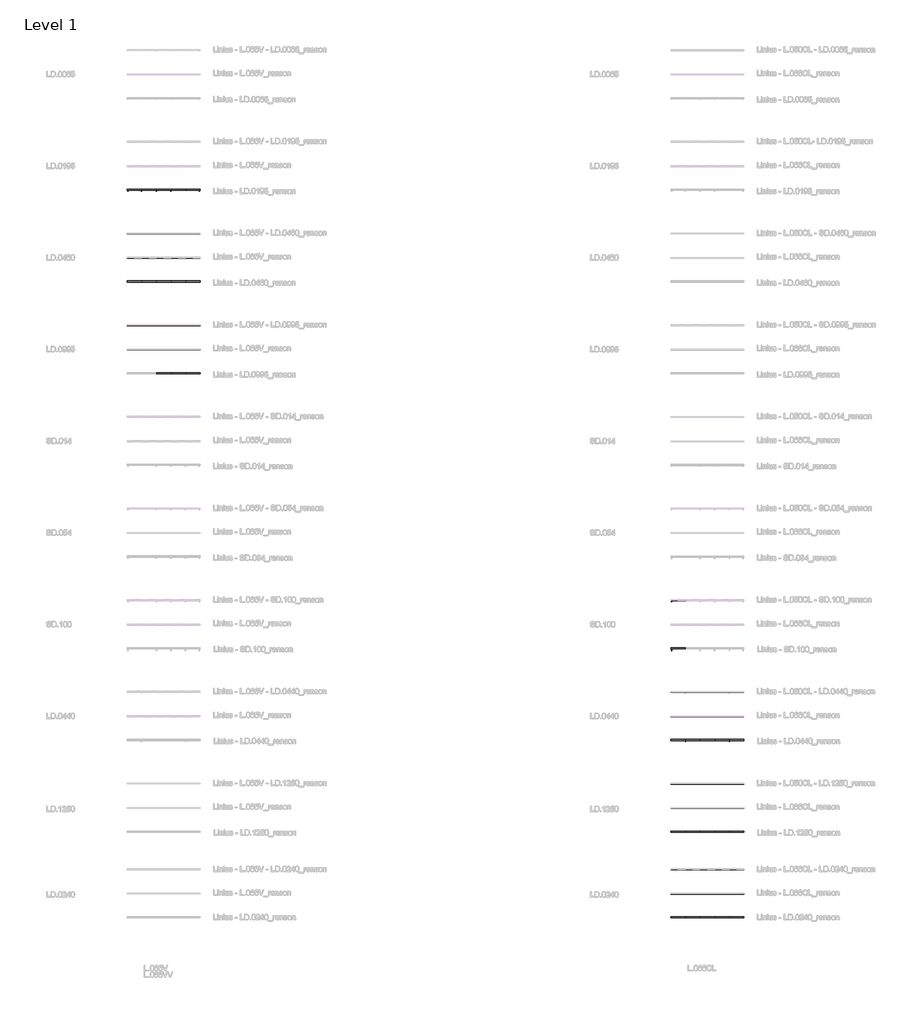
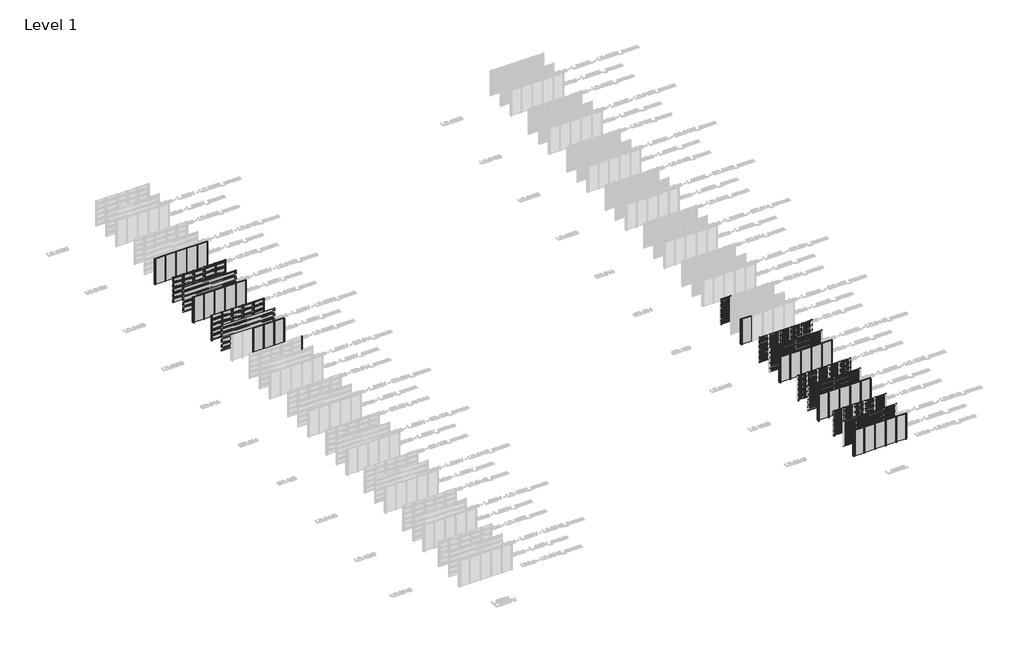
# One storey, part 9 of 540: 67 members, 60 plates.
"""IFC4 building model written with IfcOpenShell, lengths in millimetres."""

from ifc_helpers import new_model, si_unit, origin, origin_with_axes, place, context, project, spatial, polyline, outline, extrude, faceted_brep, transform, mapped, element, save
from components import rectangular_mullion_e1f482b2, rectangular_mullion_21e3ddae, rectangular_mullion_fb497acc, rectangular_mullion_2c867e25, rectangular_mullion_7803f5c4, rectangular_mullion_82152e2f, rectangular_mullion_146f339b, rectangular_mullion_aa1047c5, rectangular_mullion_c2c7736a, rectangular_mullion_35b0a916, rectangular_mullion_bd250e2e, rectangular_mullion_7b49c8f1, rectangular_mullion_0fd695e7, rectangular_mullion_6132f1f1, rectangular_mullion_5b30f3fd, rectangular_mullion_5e0e8e0a, rectangular_mullion_d2d38772, rectangular_mullion_efb80f74, rectangular_mullion_aaa1fb1b, rectangular_mullion_ea9d012c, empty_system_panel_empty_aabbdda4

model = new_model("IFC4")

# Units and contexts
model_context = context("Model", 3, world=origin())
ifc_project = project(units=[si_unit("LENGTHUNIT", "METRE", prefix="MILLI")], contexts=[model_context])

# Site, building, storey
site = spatial("IfcSite", under=ifc_project)
building = spatial("IfcBuilding", under=site)
storey = spatial("IfcBuildingStorey", under=building, Name="Level 1", Elevation=0.0)

# Members
placement = place(None, origin())
rectangular_mullion_shape = rectangular_mullion_e1f482b2(model_context)
element("IfcMember", 1, ObjectType="Rectangular Mullion : LD.0195_renson", at=placement, inside=storey, context=model_context, shape_type="MappedRepresentation", body=[
    mapped(rectangular_mullion_shape, transform((183266.6208095, 62483.0540136, 0.0), x_axis=(-1.0, 0.0, 0.0), y_axis=(0.0, 1.0, 0.0), z_axis=(0.0, 0.0, -1.0))),
])
element("IfcMember", 2, ObjectType="Rectangular Mullion : LD.0195_renson", at=placement, inside=storey, context=model_context, shape_type="MappedRepresentation", body=[
    mapped(rectangular_mullion_shape, transform((182066.6208096, 62483.0540136, 0.0), x_axis=(-1.0, 0.0, 0.0), y_axis=(0.0, 1.0, 0.0), z_axis=(0.0, 0.0, -1.0))),
])
element("IfcMember", 3, ObjectType="Rectangular Mullion : LD.0195_renson", at=placement, inside=storey, context=model_context, shape_type="MappedRepresentation", body=[
    mapped(rectangular_mullion_shape, transform((180866.6208097, 62483.0540136, 0.0), x_axis=(-1.0, 0.0, 0.0), y_axis=(0.0, 1.0, 0.0), z_axis=(0.0, 0.0, -1.0))),
])
element("IfcMember", 4, ObjectType="Rectangular Mullion : LD.0195_renson", at=placement, inside=storey, context=model_context, shape_type="MappedRepresentation", body=[
    mapped(rectangular_mullion_shape, transform((179666.6208099, 62483.0540136, 0.0), x_axis=(-1.0, 0.0, 0.0), y_axis=(0.0, 1.0, 0.0), z_axis=(0.0, 0.0, -1.0))),
])
rectangular_mullion_2_shape = rectangular_mullion_21e3ddae(model_context)
element("IfcMember", 5, ObjectType="Rectangular Mullion : LD.0460_renson", at=placement, inside=storey, context=model_context, shape_type="MappedRepresentation", body=[
    mapped(rectangular_mullion_2_shape, transform((182066.6208096, 58983.0540136, 0.0), x_axis=(-1.0, 0.0, 0.0), y_axis=(0.0, 1.0, 0.0), z_axis=(0.0, 0.0, -1.0))),
])
element("IfcMember", 6, ObjectType="Rectangular Mullion : LD.0460_renson", at=placement, inside=storey, context=model_context, shape_type="MappedRepresentation", body=[
    mapped(rectangular_mullion_2_shape, transform((180866.6208097, 58983.0540136, 0.0), x_axis=(-1.0, 0.0, 0.0), y_axis=(0.0, 1.0, 0.0), z_axis=(0.0, 0.0, -1.0))),
])
element("IfcMember", 7, ObjectType="Rectangular Mullion : LD.0460_renson", at=placement, inside=storey, context=model_context, shape_type="MappedRepresentation", body=[
    mapped(rectangular_mullion_2_shape, transform((179666.6208099, 58983.0540136, 0.0), x_axis=(-1.0, 0.0, 0.0), y_axis=(0.0, 1.0, 0.0), z_axis=(0.0, 0.0, -1.0))),
])
element("IfcMember", 8, ObjectType="Rectangular Mullion : LD.0460_renson", at=placement, inside=storey, context=model_context, shape_type="MappedRepresentation", body=[
    mapped(rectangular_mullion_2_shape, transform((183266.6208095, 54983.0540136, 0.0), x_axis=(-1.0, 0.0, 0.0), y_axis=(0.0, 1.0, 0.0), z_axis=(0.0, 0.0, -1.0))),
])
element("IfcMember", 9, ObjectType="Rectangular Mullion : LD.0460_renson", at=placement, inside=storey, context=model_context, shape_type="MappedRepresentation", body=[
    mapped(rectangular_mullion_2_shape, transform((182066.6208096, 54983.0540136, 0.0), x_axis=(-1.0, 0.0, 0.0), y_axis=(0.0, 1.0, 0.0), z_axis=(0.0, 0.0, -1.0))),
])
element("IfcMember", 10, ObjectType="Rectangular Mullion : LD.0460_renson", at=placement, inside=storey, context=model_context, shape_type="MappedRepresentation", body=[
    mapped(rectangular_mullion_2_shape, transform((180866.6208097, 54983.0540136, 0.0), x_axis=(-1.0, 0.0, 0.0), y_axis=(0.0, 1.0, 0.0), z_axis=(0.0, 0.0, -1.0))),
])
element("IfcMember", 11, ObjectType="Rectangular Mullion : LD.0460_renson", at=placement, inside=storey, context=model_context, shape_type="MappedRepresentation", body=[
    mapped(rectangular_mullion_2_shape, transform((179666.6208099, 54983.0540136, 0.0), x_axis=(-1.0, 0.0, 0.0), y_axis=(0.0, 1.0, 0.0), z_axis=(0.0, 0.0, -1.0))),
])
element("IfcMember", 12, ObjectType="Rectangular Mullion : LD.0460_renson", at=placement, inside=storey, context=model_context, shape_type="MappedRepresentation", body=[
    mapped(rectangular_mullion_2_shape, transform((183266.6208095, 58983.0540136, 0.0), x_axis=(-1.0, 0.0, 0.0), y_axis=(0.0, 1.0, 0.0), z_axis=(0.0, 0.0, -1.0))),
])
rectangular_mullion_3_shape = rectangular_mullion_fb497acc(model_context)
element("IfcMember", 13, ObjectType="Rectangular Mullion : LD.0995_renson", at=placement, inside=storey, context=model_context, shape_type="MappedRepresentation", body=[
    mapped(rectangular_mullion_3_shape, transform((182066.6208096, 51483.0540136, 0.0), x_axis=(-1.0, 0.0, 0.0), y_axis=(0.0, 1.0, 0.0), z_axis=(0.0, 0.0, -1.0))),
])
element("IfcMember", 14, ObjectType="Rectangular Mullion : LD.0995_renson", at=placement, inside=storey, context=model_context, shape_type="MappedRepresentation", body=[
    mapped(rectangular_mullion_3_shape, transform((180866.6208097, 51483.0540136, 0.0), x_axis=(-1.0, 0.0, 0.0), y_axis=(0.0, 1.0, 0.0), z_axis=(0.0, 0.0, -1.0))),
])
element("IfcMember", 15, ObjectType="Rectangular Mullion : LD.0995_renson", at=placement, inside=storey, context=model_context, shape_type="MappedRepresentation", body=[
    mapped(rectangular_mullion_3_shape, transform((179666.6208099, 51483.0540136, 0.0), x_axis=(-1.0, 0.0, 0.0), y_axis=(0.0, 1.0, 0.0), z_axis=(0.0, 0.0, -1.0))),
])
element("IfcMember", 16, ObjectType="Rectangular Mullion : LD.0995_renson", at=placement, inside=storey, context=model_context, shape_type="MappedRepresentation", body=[
    mapped(rectangular_mullion_3_shape, transform((183266.6208095, 47483.0540136, 0.0), x_axis=(-1.0, 0.0, 0.0), y_axis=(0.0, 1.0, 0.0), z_axis=(0.0, 0.0, -1.0))),
])
element("IfcMember", 17, ObjectType="Rectangular Mullion : LD.0995_renson", at=placement, inside=storey, context=model_context, shape_type="MappedRepresentation", body=[
    mapped(rectangular_mullion_3_shape, transform((182066.6208096, 47483.0540136, 0.0), x_axis=(-1.0, 0.0, 0.0), y_axis=(0.0, 1.0, 0.0), z_axis=(0.0, 0.0, -1.0))),
])
element("IfcMember", 18, ObjectType="Rectangular Mullion : LD.0995_renson", at=placement, inside=storey, context=model_context, shape_type="MappedRepresentation", body=[
    mapped(rectangular_mullion_3_shape, transform((180866.6208097, 47483.0540136, 0.0), x_axis=(-1.0, 0.0, 0.0), y_axis=(0.0, 1.0, 0.0), z_axis=(0.0, 0.0, -1.0))),
])
element("IfcMember", 19, ObjectType="Rectangular Mullion : LD.0995_renson", at=placement, inside=storey, context=model_context, shape_type="MappedRepresentation", body=[
    mapped(rectangular_mullion_3_shape, transform((183266.6208095, 51483.0540136, 0.0), x_axis=(-1.0, 0.0, 0.0), y_axis=(0.0, 1.0, 0.0), z_axis=(0.0, 0.0, -1.0))),
])
rectangular_mullion_4_shape = rectangular_mullion_2c867e25(model_context)
element("IfcMember", 20, ObjectType="Rectangular Mullion : LD.0440_renson", at=placement, inside=storey, context=model_context, shape_type="MappedRepresentation", body=[
    mapped(rectangular_mullion_4_shape, transform((225366.6208097, 21478.8040136, 0.0), x_axis=(-1.0, 0.0, 0.0), y_axis=(0.0, 1.0, 0.0), z_axis=(0.0, 0.0, -1.0))),
])
element("IfcMember", 21, ObjectType="Rectangular Mullion : LD.0440_renson", at=placement, inside=storey, context=model_context, shape_type="MappedRepresentation", body=[
    mapped(rectangular_mullion_4_shape, transform((224166.6208099, 21478.8040136, 0.0), x_axis=(-1.0, 0.0, 0.0), y_axis=(0.0, 1.0, 0.0), z_axis=(0.0, 0.0, -1.0))),
])
element("IfcMember", 22, ObjectType="Rectangular Mullion : LD.0440_renson", at=placement, inside=storey, context=model_context, shape_type="MappedRepresentation", body=[
    mapped(rectangular_mullion_4_shape, transform((225366.6208097, 17478.8040136, 0.0), x_axis=(-1.0, 0.0, 0.0), y_axis=(0.0, 1.0, 0.0), z_axis=(0.0, 0.0, -1.0))),
])
element("IfcMember", 23, ObjectType="Rectangular Mullion : LD.0440_renson", at=placement, inside=storey, context=model_context, shape_type="MappedRepresentation", body=[
    mapped(rectangular_mullion_4_shape, transform((224166.6208099, 17478.8040136, 0.0), x_axis=(-1.0, 0.0, 0.0), y_axis=(0.0, 1.0, 0.0), z_axis=(0.0, 0.0, -1.0))),
])
element("IfcMember", 24, ObjectType="Rectangular Mullion : LD.0440_renson", at=placement, inside=storey, context=model_context, shape_type="MappedRepresentation", body=[
    mapped(rectangular_mullion_4_shape, transform((226566.6208096, 17478.8040136, 0.0), x_axis=(-1.0, 0.0, 0.0), y_axis=(0.0, 1.0, 0.0), z_axis=(0.0, 0.0, -1.0))),
])
element("IfcMember", 25, ObjectType="Rectangular Mullion : LD.0440_renson", at=placement, inside=storey, context=model_context, shape_type="MappedRepresentation", body=[
    mapped(rectangular_mullion_4_shape, transform((227766.6208095, 17478.8040136, 0.0), x_axis=(-1.0, 0.0, 0.0), y_axis=(0.0, 1.0, 0.0), z_axis=(0.0, 0.0, -1.0))),
])
element("IfcMember", 26, ObjectType="Rectangular Mullion : LD.0440_renson", at=placement, inside=storey, context=model_context, shape_type="MappedRepresentation", body=[
    mapped(rectangular_mullion_4_shape, transform((226566.6208096, 21478.8040136, 0.0), x_axis=(-1.0, 0.0, 0.0), y_axis=(0.0, 1.0, 0.0), z_axis=(0.0, 0.0, -1.0))),
])
element("IfcMember", 27, ObjectType="Rectangular Mullion : LD.0440_renson", at=placement, inside=storey, context=model_context, shape_type="MappedRepresentation", body=[
    mapped(rectangular_mullion_4_shape, transform((227766.6208095, 21478.8040136, 0.0), x_axis=(-1.0, 0.0, 0.0), y_axis=(0.0, 1.0, 0.0), z_axis=(0.0, 0.0, -1.0))),
])
rectangular_mullion_5_shape = rectangular_mullion_7803f5c4(model_context)
element("IfcMember", 28, ObjectType="Rectangular Mullion : LD.1250_renson", at=placement, inside=storey, context=model_context, shape_type="MappedRepresentation", body=[
    mapped(rectangular_mullion_5_shape, transform((225366.6208097, 13978.8040136, 0.0), x_axis=(-1.0, 0.0, 0.0), y_axis=(0.0, 1.0, 0.0), z_axis=(0.0, 0.0, -1.0))),
])
element("IfcMember", 29, ObjectType="Rectangular Mullion : LD.1250_renson", at=placement, inside=storey, context=model_context, shape_type="MappedRepresentation", body=[
    mapped(rectangular_mullion_5_shape, transform((224166.6208099, 13978.8040136, 0.0), x_axis=(-1.0, 0.0, 0.0), y_axis=(0.0, 1.0, 0.0), z_axis=(0.0, 0.0, -1.0))),
])
element("IfcMember", 30, ObjectType="Rectangular Mullion : LD.1250_renson", at=placement, inside=storey, context=model_context, shape_type="MappedRepresentation", body=[
    mapped(rectangular_mullion_5_shape, transform((225366.6208097, 9978.8040136, 0.0), x_axis=(-1.0, 0.0, 0.0), y_axis=(0.0, 1.0, 0.0), z_axis=(0.0, 0.0, -1.0))),
])
element("IfcMember", 31, ObjectType="Rectangular Mullion : LD.1250_renson", at=placement, inside=storey, context=model_context, shape_type="MappedRepresentation", body=[
    mapped(rectangular_mullion_5_shape, transform((224166.6208099, 9978.8040136, 0.0), x_axis=(-1.0, 0.0, 0.0), y_axis=(0.0, 1.0, 0.0), z_axis=(0.0, 0.0, -1.0))),
])
element("IfcMember", 32, ObjectType="Rectangular Mullion : LD.1250_renson", at=placement, inside=storey, context=model_context, shape_type="MappedRepresentation", body=[
    mapped(rectangular_mullion_5_shape, transform((226566.6208096, 9978.8040136, 0.0), x_axis=(-1.0, 0.0, 0.0), y_axis=(0.0, 1.0, 0.0), z_axis=(0.0, 0.0, -1.0))),
])
element("IfcMember", 33, ObjectType="Rectangular Mullion : LD.1250_renson", at=placement, inside=storey, context=model_context, shape_type="MappedRepresentation", body=[
    mapped(rectangular_mullion_5_shape, transform((227766.6208095, 9978.8040136, 0.0), x_axis=(-1.0, 0.0, 0.0), y_axis=(0.0, 1.0, 0.0), z_axis=(0.0, 0.0, -1.0))),
])
element("IfcMember", 34, ObjectType="Rectangular Mullion : LD.1250_renson", at=placement, inside=storey, context=model_context, shape_type="MappedRepresentation", body=[
    mapped(rectangular_mullion_5_shape, transform((226566.6208096, 13978.8040136, 0.0), x_axis=(-1.0, 0.0, 0.0), y_axis=(0.0, 1.0, 0.0), z_axis=(0.0, 0.0, -1.0))),
])
element("IfcMember", 35, ObjectType="Rectangular Mullion : LD.1250_renson", at=placement, inside=storey, context=model_context, shape_type="MappedRepresentation", body=[
    mapped(rectangular_mullion_5_shape, transform((227766.6208095, 13978.8040136, 0.0), x_axis=(-1.0, 0.0, 0.0), y_axis=(0.0, 1.0, 0.0), z_axis=(0.0, 0.0, -1.0))),
])
rectangular_mullion_6_shape = rectangular_mullion_82152e2f(model_context)
element("IfcMember", 36, ObjectType="Rectangular Mullion : LD.0240_renson", at=placement, inside=storey, context=model_context, shape_type="MappedRepresentation", body=[
    mapped(rectangular_mullion_6_shape, transform((225366.6208097, 6982.7770068, 0.0), x_axis=(-1.0, 0.0, 0.0), y_axis=(0.0, 1.0, 0.0), z_axis=(0.0, 0.0, -1.0))),
])
element("IfcMember", 37, ObjectType="Rectangular Mullion : LD.0240_renson", at=placement, inside=storey, context=model_context, shape_type="MappedRepresentation", body=[
    mapped(rectangular_mullion_6_shape, transform((224166.6208099, 6982.7770068, 0.0), x_axis=(-1.0, 0.0, 0.0), y_axis=(0.0, 1.0, 0.0), z_axis=(0.0, 0.0, -1.0))),
])
element("IfcMember", 38, ObjectType="Rectangular Mullion : LD.0240_renson", at=placement, inside=storey, context=model_context, shape_type="MappedRepresentation", body=[
    mapped(rectangular_mullion_6_shape, transform((225366.6208097, 2982.7770068, 0.0), x_axis=(-1.0, 0.0, 0.0), y_axis=(0.0, 1.0, 0.0), z_axis=(0.0, 0.0, -1.0))),
])
element("IfcMember", 39, ObjectType="Rectangular Mullion : LD.0240_renson", at=placement, inside=storey, context=model_context, shape_type="MappedRepresentation", body=[
    mapped(rectangular_mullion_6_shape, transform((224166.6208099, 2982.7770068, 0.0), x_axis=(-1.0, 0.0, 0.0), y_axis=(0.0, 1.0, 0.0), z_axis=(0.0, 0.0, -1.0))),
])
element("IfcMember", 40, ObjectType="Rectangular Mullion : LD.0240_renson", at=placement, inside=storey, context=model_context, shape_type="MappedRepresentation", body=[
    mapped(rectangular_mullion_6_shape, transform((226566.6208096, 2982.7770068, 0.0), x_axis=(-1.0, 0.0, 0.0), y_axis=(0.0, 1.0, 0.0), z_axis=(0.0, 0.0, -1.0))),
])
element("IfcMember", 41, ObjectType="Rectangular Mullion : LD.0240_renson", at=placement, inside=storey, context=model_context, shape_type="MappedRepresentation", body=[
    mapped(rectangular_mullion_6_shape, transform((227766.6208095, 2982.7770068, 0.0), x_axis=(-1.0, 0.0, 0.0), y_axis=(0.0, 1.0, 0.0), z_axis=(0.0, 0.0, -1.0))),
])
element("IfcMember", 42, ObjectType="Rectangular Mullion : LD.0240_renson", at=placement, inside=storey, context=model_context, shape_type="MappedRepresentation", body=[
    mapped(rectangular_mullion_6_shape, transform((226566.6208096, 6982.7770068, 0.0), x_axis=(-1.0, 0.0, 0.0), y_axis=(0.0, 1.0, 0.0), z_axis=(0.0, 0.0, -1.0))),
])
element("IfcMember", 43, ObjectType="Rectangular Mullion : LD.0240_renson", at=placement, inside=storey, context=model_context, shape_type="MappedRepresentation", body=[
    mapped(rectangular_mullion_6_shape, transform((227766.6208095, 6982.7770068, 0.0), x_axis=(-1.0, 0.0, 0.0), y_axis=(0.0, 1.0, 0.0), z_axis=(0.0, 0.0, -1.0))),
])
rectangular_mullion_7_shape = rectangular_mullion_146f339b(model_context)
element("IfcMember", 44, ObjectType="Rectangular Mullion : LD.0195 - left_renson", at=placement, inside=storey, context=model_context, shape_type="MappedRepresentation", body=[
    mapped(rectangular_mullion_7_shape, transform((178466.6208097, 62483.0540136, 0.0), x_axis=(-1.0, 0.0, 0.0), y_axis=(0.0, 1.0, 0.0), z_axis=(0.0, 0.0, -1.0))),
])
rectangular_mullion_8_shape = rectangular_mullion_aa1047c5(model_context)
element("IfcMember", 45, ObjectType="Rectangular Mullion : LD.0195 - right_renson", at=placement, inside=storey, context=model_context, shape_type="MappedRepresentation", body=[
    mapped(rectangular_mullion_8_shape, transform((184466.6208097, 62483.0540136, 3000.0), x_axis=(1.0, 0.0, 0.0), y_axis=(0.0, 1.0, 0.0), z_axis=(0.0, 0.0, 1.0))),
])
rectangular_mullion_9_shape = rectangular_mullion_c2c7736a(model_context)
element("IfcMember", 46, ObjectType="Rectangular Mullion : LD.0460 - left_renson", at=placement, inside=storey, context=model_context, shape_type="MappedRepresentation", body=[
    mapped(rectangular_mullion_9_shape, transform((178466.6208097, 58983.0540136, 0.0), x_axis=(-1.0, 0.0, 0.0), y_axis=(0.0, 1.0, 0.0), z_axis=(0.0, 0.0, -1.0))),
])
element("IfcMember", 47, ObjectType="Rectangular Mullion : LD.0460 - left_renson", at=placement, inside=storey, context=model_context, shape_type="MappedRepresentation", body=[
    mapped(rectangular_mullion_9_shape, transform((178466.6208097, 54983.0540136, 0.0), x_axis=(-1.0, 0.0, 0.0), y_axis=(0.0, 1.0, 0.0), z_axis=(0.0, 0.0, -1.0))),
])
rectangular_mullion_10_shape = rectangular_mullion_35b0a916(model_context)
element("IfcMember", 48, ObjectType="Rectangular Mullion : LD.0460 - right_renson", at=placement, inside=storey, context=model_context, shape_type="MappedRepresentation", body=[
    mapped(rectangular_mullion_10_shape, transform((184466.6208097, 58983.0540136, 3000.0), x_axis=(1.0, 0.0, 0.0), y_axis=(0.0, 1.0, 0.0), z_axis=(0.0, 0.0, 1.0))),
])
element("IfcMember", 49, ObjectType="Rectangular Mullion : LD.0460 - right_renson", at=placement, inside=storey, context=model_context, shape_type="MappedRepresentation", body=[
    mapped(rectangular_mullion_10_shape, transform((184466.6208097, 54983.0540136, 3000.0), x_axis=(1.0, 0.0, 0.0), y_axis=(0.0, 1.0, 0.0), z_axis=(0.0, 0.0, 1.0))),
])
rectangular_mullion_11_shape = rectangular_mullion_bd250e2e(model_context)
element("IfcMember", 50, ObjectType="Rectangular Mullion : LD.0995 - left_renson", at=placement, inside=storey, context=model_context, shape_type="MappedRepresentation", body=[
    mapped(rectangular_mullion_11_shape, transform((178466.6208097, 51483.0540136, 0.0), x_axis=(-1.0, 0.0, 0.0), y_axis=(0.0, 1.0, 0.0), z_axis=(0.0, 0.0, -1.0))),
])
rectangular_mullion_12_shape = rectangular_mullion_7b49c8f1(model_context)
element("IfcMember", 51, ObjectType="Rectangular Mullion : LD.0995 - right_renson", at=placement, inside=storey, context=model_context, shape_type="MappedRepresentation", body=[
    mapped(rectangular_mullion_12_shape, transform((184466.6208097, 51483.0540136, 3000.0), x_axis=(1.0, 0.0, 0.0), y_axis=(0.0, 1.0, 0.0), z_axis=(0.0, 0.0, 1.0))),
])
element("IfcMember", 52, ObjectType="Rectangular Mullion : LD.0995 - right_renson", at=placement, inside=storey, context=model_context, shape_type="MappedRepresentation", body=[
    mapped(rectangular_mullion_12_shape, transform((184466.6208097, 47483.0540136, 3000.0), x_axis=(1.0, 0.0, 0.0), y_axis=(0.0, 1.0, 0.0), z_axis=(0.0, 0.0, 1.0))),
])
rectangular_mullion_13_shape = rectangular_mullion_0fd695e7(model_context)
element("IfcMember", 53, ObjectType="Rectangular Mullion : SD.014 - right_renson", at=placement, inside=storey, context=model_context, shape_type="MappedRepresentation", body=[
    mapped(rectangular_mullion_13_shape, transform((184466.6208097, 43983.0540136, 3000.0), x_axis=(1.0, 0.0, 0.0), y_axis=(0.0, 1.0, 0.0), z_axis=(0.0, 0.0, 1.0))),
])
rectangular_mullion_14_shape = rectangular_mullion_6132f1f1(model_context)
element("IfcMember", 54, ObjectType="Rectangular Mullion : SD.100 - left_renson", at=placement, inside=storey, context=model_context, shape_type="MappedRepresentation", body=[
    mapped(rectangular_mullion_14_shape, transform((222966.6208097, 28978.8040136, 0.0), x_axis=(-1.0, 0.0, 0.0), y_axis=(0.0, 1.0, 0.0), z_axis=(0.0, 0.0, -1.0))),
])
element("IfcMember", 55, ObjectType="Rectangular Mullion : SD.100 - left_renson", at=placement, inside=storey, context=model_context, shape_type="MappedRepresentation", body=[
    mapped(rectangular_mullion_14_shape, transform((222966.6208097, 24978.8040136, 0.0), x_axis=(-1.0, 0.0, 0.0), y_axis=(0.0, 1.0, 0.0), z_axis=(0.0, 0.0, -1.0))),
])
rectangular_mullion_15_shape = rectangular_mullion_5b30f3fd(model_context)
element("IfcMember", 56, ObjectType="Rectangular Mullion : LD.0440 - left_renson", at=placement, inside=storey, context=model_context, shape_type="MappedRepresentation", body=[
    mapped(rectangular_mullion_15_shape, transform((222966.6208097, 21478.8040136, 0.0), x_axis=(-1.0, 0.0, 0.0), y_axis=(0.0, 1.0, 0.0), z_axis=(0.0, 0.0, -1.0))),
])
element("IfcMember", 57, ObjectType="Rectangular Mullion : LD.0440 - left_renson", at=placement, inside=storey, context=model_context, shape_type="MappedRepresentation", body=[
    mapped(rectangular_mullion_15_shape, transform((222966.6208097, 17478.8040136, 0.0), x_axis=(-1.0, 0.0, 0.0), y_axis=(0.0, 1.0, 0.0), z_axis=(0.0, 0.0, -1.0))),
])
rectangular_mullion_16_shape = rectangular_mullion_5e0e8e0a(model_context)
element("IfcMember", 58, ObjectType="Rectangular Mullion : LD.0440 - right_renson", at=placement, inside=storey, context=model_context, shape_type="MappedRepresentation", body=[
    mapped(rectangular_mullion_16_shape, transform((228966.6208097, 21478.8040136, 3000.0), x_axis=(1.0, 0.0, 0.0), y_axis=(0.0, 1.0, 0.0), z_axis=(0.0, 0.0, 1.0))),
])
element("IfcMember", 59, ObjectType="Rectangular Mullion : LD.0440 - right_renson", at=placement, inside=storey, context=model_context, shape_type="MappedRepresentation", body=[
    mapped(rectangular_mullion_16_shape, transform((228966.6208097, 17478.8040136, 3000.0), x_axis=(1.0, 0.0, 0.0), y_axis=(0.0, 1.0, 0.0), z_axis=(0.0, 0.0, 1.0))),
])
rectangular_mullion_17_shape = rectangular_mullion_d2d38772(model_context)
element("IfcMember", 60, ObjectType="Rectangular Mullion : LD.1250 - left_renson", at=placement, inside=storey, context=model_context, shape_type="MappedRepresentation", body=[
    mapped(rectangular_mullion_17_shape, transform((222966.6208097, 13978.8040136, 0.0), x_axis=(-1.0, 0.0, 0.0), y_axis=(0.0, 1.0, 0.0), z_axis=(0.0, 0.0, -1.0))),
])
element("IfcMember", 61, ObjectType="Rectangular Mullion : LD.1250 - left_renson", at=placement, inside=storey, context=model_context, shape_type="MappedRepresentation", body=[
    mapped(rectangular_mullion_17_shape, transform((222966.6208097, 9978.8040136, 0.0), x_axis=(-1.0, 0.0, 0.0), y_axis=(0.0, 1.0, 0.0), z_axis=(0.0, 0.0, -1.0))),
])
rectangular_mullion_18_shape = rectangular_mullion_efb80f74(model_context)
element("IfcMember", 62, ObjectType="Rectangular Mullion : LD.1250 - right_renson", at=placement, inside=storey, context=model_context, shape_type="MappedRepresentation", body=[
    mapped(rectangular_mullion_18_shape, transform((228966.6208097, 13978.8040136, 3000.0), x_axis=(1.0, 0.0, 0.0), y_axis=(0.0, 1.0, 0.0), z_axis=(0.0, 0.0, 1.0))),
])
element("IfcMember", 63, ObjectType="Rectangular Mullion : LD.1250 - right_renson", at=placement, inside=storey, context=model_context, shape_type="MappedRepresentation", body=[
    mapped(rectangular_mullion_18_shape, transform((228966.6208097, 9978.8040136, 3000.0), x_axis=(1.0, 0.0, 0.0), y_axis=(0.0, 1.0, 0.0), z_axis=(0.0, 0.0, 1.0))),
])
rectangular_mullion_19_shape = rectangular_mullion_aaa1fb1b(model_context)
element("IfcMember", 64, ObjectType="Rectangular Mullion : LD.0240 - left_renson", at=placement, inside=storey, context=model_context, shape_type="MappedRepresentation", body=[
    mapped(rectangular_mullion_19_shape, transform((222966.6208097, 6982.7770068, 0.0), x_axis=(-1.0, 0.0, 0.0), y_axis=(0.0, 1.0, 0.0), z_axis=(0.0, 0.0, -1.0))),
])
element("IfcMember", 65, ObjectType="Rectangular Mullion : LD.0240 - left_renson", at=placement, inside=storey, context=model_context, shape_type="MappedRepresentation", body=[
    mapped(rectangular_mullion_19_shape, transform((222966.6208097, 2982.7770068, 0.0), x_axis=(-1.0, 0.0, 0.0), y_axis=(0.0, 1.0, 0.0), z_axis=(0.0, 0.0, -1.0))),
])
rectangular_mullion_20_shape = rectangular_mullion_ea9d012c(model_context)
element("IfcMember", 66, ObjectType="Rectangular Mullion : LD.0240 - right_renson", at=placement, inside=storey, context=model_context, shape_type="MappedRepresentation", body=[
    mapped(rectangular_mullion_20_shape, transform((228966.6208097, 6982.7770068, 3000.0), x_axis=(1.0, 0.0, 0.0), y_axis=(0.0, 1.0, 0.0), z_axis=(0.0, 0.0, 1.0))),
])
element("IfcMember", 67, ObjectType="Rectangular Mullion : LD.0240 - right_renson", at=placement, inside=storey, context=model_context, shape_type="MappedRepresentation", body=[
    mapped(rectangular_mullion_20_shape, transform((228966.6208097, 2982.7770068, 3000.0), x_axis=(1.0, 0.0, 0.0), y_axis=(0.0, 1.0, 0.0), z_axis=(0.0, 0.0, 1.0))),
])

# Plates
element("IfcPlate", 68, ObjectType="Linius - L.066V_renson", at=placement, inside=storey, context=model_context, shape_type="SweptSolid", body=[
    extrude(outline(polyline([(178466.6208097, 58984.0540136), (179666.6208099, 58984.0540136), (179666.6208099, 58982.0540136), (178466.6208097, 58982.0540136), (178466.6208097, 58984.0540136)])), origin_with_axes(), (0.0, 0.0, 1.0), 3000.0),
])
element("IfcPlate", 69, ObjectType="Linius - L.066V_renson", at=placement, inside=storey, context=model_context, shape_type="SweptSolid", body=[
    extrude(outline(polyline([(179666.6208099, 58984.0540136), (180866.6208097, 58984.0540136), (180866.6208097, 58982.0540136), (179666.6208099, 58982.0540136), (179666.6208099, 58984.0540136)])), origin_with_axes(), (0.0, 0.0, 1.0), 3000.0),
])
element("IfcPlate", 70, ObjectType="Linius - L.066V_renson", at=placement, inside=storey, context=model_context, shape_type="SweptSolid", body=[
    extrude(outline(polyline([(180866.6208097, 58984.0540136), (182066.6208096, 58984.0540136), (182066.6208096, 58982.0540136), (180866.6208097, 58982.0540136), (180866.6208097, 58984.0540136)])), origin_with_axes(), (0.0, 0.0, 1.0), 3000.0),
])
element("IfcPlate", 71, ObjectType="Linius - L.066V_renson", at=placement, inside=storey, context=model_context, shape_type="SweptSolid", body=[
    extrude(outline(polyline([(183266.6208095, 58984.0540136), (184466.6208097, 58984.0540136), (184466.6208097, 58982.0540136), (183266.6208095, 58982.0540136), (183266.6208095, 58984.0540136)])), origin_with_axes(), (0.0, 0.0, 1.0), 3000.0),
])
element("IfcPlate", 72, ObjectType="Linius - L.066V_renson", at=placement, inside=storey, context=model_context, shape_type="SweptSolid", body=[
    extrude(outline(polyline([(178466.6208097, 56984.0540136), (184466.6208097, 56984.0540136), (184466.6208097, 56982.0540136), (178466.6208097, 56982.0540136), (178466.6208097, 56984.0540136)])), origin_with_axes(), (0.0, 0.0, 1.0), 3000.0),
])
element("IfcPlate", 73, ObjectType="Linius - L.066V_renson", at=placement, inside=storey, context=model_context, shape_type="SweptSolid", body=[
    extrude(outline(polyline([(178466.6208097, 51484.0540136), (179666.6208099, 51484.0540136), (179666.6208099, 51482.0540136), (178466.6208097, 51482.0540136), (178466.6208097, 51484.0540136)])), origin_with_axes(), (0.0, 0.0, 1.0), 3000.0),
])
element("IfcPlate", 74, ObjectType="Linius - L.066V_renson", at=placement, inside=storey, context=model_context, shape_type="SweptSolid", body=[
    extrude(outline(polyline([(179666.6208099, 51484.0540136), (180866.6208097, 51484.0540136), (180866.6208097, 51482.0540136), (179666.6208099, 51482.0540136), (179666.6208099, 51484.0540136)])), origin_with_axes(), (0.0, 0.0, 1.0), 3000.0),
])
element("IfcPlate", 75, ObjectType="Linius - L.066V_renson", at=placement, inside=storey, context=model_context, shape_type="SweptSolid", body=[
    extrude(outline(polyline([(180866.6208097, 51484.0540136), (182066.6208096, 51484.0540136), (182066.6208096, 51482.0540136), (180866.6208097, 51482.0540136), (180866.6208097, 51484.0540136)])), origin_with_axes(), (0.0, 0.0, 1.0), 3000.0),
])
element("IfcPlate", 76, ObjectType="Linius - L.066V_renson", at=placement, inside=storey, context=model_context, shape_type="SweptSolid", body=[
    extrude(outline(polyline([(183266.6208095, 51484.0540136), (184466.6208097, 51484.0540136), (184466.6208097, 51482.0540136), (183266.6208095, 51482.0540136), (183266.6208095, 51484.0540136)])), origin_with_axes(), (0.0, 0.0, 1.0), 3000.0),
])
element("IfcPlate", 77, ObjectType="Linius - L.066V_renson", at=placement, inside=storey, context=model_context, shape_type="SweptSolid", body=[
    extrude(outline(polyline([(178466.6208097, 49484.0540136), (184466.6208097, 49484.0540136), (184466.6208097, 49482.0540136), (178466.6208097, 49482.0540136), (178466.6208097, 49484.0540136)])), origin_with_axes(), (0.0, 0.0, 1.0), 3000.0),
])
element("IfcPlate", 78, ObjectType="Linius - L.066V_renson", at=placement, inside=storey, context=model_context, shape_type="SweptSolid", body=[
    extrude(outline(polyline([(182066.6208096, 58984.0540136), (183266.6208095, 58984.0540136), (183266.6208095, 58982.0540136), (182066.6208096, 58982.0540136), (182066.6208096, 58984.0540136)])), origin_with_axes(), (0.0, 0.0, 1.0), 3000.0),
])
element("IfcPlate", 79, ObjectType="Linius - L.066V_renson", at=placement, inside=storey, context=model_context, shape_type="SweptSolid", body=[
    extrude(outline(polyline([(182066.6208096, 51484.0540136), (183266.6208095, 51484.0540136), (183266.6208095, 51482.0540136), (182066.6208096, 51482.0540136), (182066.6208096, 51484.0540136)])), origin_with_axes(), (0.0, 0.0, 1.0), 3000.0),
])
element("IfcPlate", 80, ObjectType="Linius - L.066CL_renson", at=placement, inside=storey, context=model_context, shape_type="SweptSolid", body=[
    extrude(outline(polyline([(222966.6208097, 28979.8040136), (224166.6208099, 28979.8040136), (224166.6208099, 28977.8040136), (222966.6208097, 28977.8040136), (222966.6208097, 28979.8040136)])), origin_with_axes(), (0.0, 0.0, 1.0), 3000.0),
])
element("IfcPlate", 81, ObjectType="Linius - L.066CL_renson", at=placement, inside=storey, context=model_context, shape_type="SweptSolid", body=[
    extrude(outline(polyline([(222966.6208097, 21479.8040136), (224166.6208099, 21479.8040136), (224166.6208099, 21477.8040136), (222966.6208097, 21477.8040136), (222966.6208097, 21479.8040136)])), origin_with_axes(), (0.0, 0.0, 1.0), 3000.0),
])
element("IfcPlate", 82, ObjectType="Linius - L.066CL_renson", at=placement, inside=storey, context=model_context, shape_type="SweptSolid", body=[
    extrude(outline(polyline([(224166.6208099, 21479.8040136), (225366.6208097, 21479.8040136), (225366.6208097, 21477.8040136), (224166.6208099, 21477.8040136), (224166.6208099, 21479.8040136)])), origin_with_axes(), (0.0, 0.0, 1.0), 3000.0),
])
element("IfcPlate", 83, ObjectType="Linius - L.066CL_renson", at=placement, inside=storey, context=model_context, shape_type="SweptSolid", body=[
    extrude(outline(polyline([(227766.6208095, 21479.8040136), (228966.6208097, 21479.8040136), (228966.6208097, 21477.8040136), (227766.6208095, 21477.8040136), (227766.6208095, 21479.8040136)])), origin_with_axes(), (0.0, 0.0, 1.0), 3000.0),
])
element("IfcPlate", 84, ObjectType="Linius - L.066CL_renson", at=placement, inside=storey, context=model_context, shape_type="SweptSolid", body=[
    extrude(outline(polyline([(222966.6208097, 19479.8040136), (228966.6208097, 19479.8040136), (228966.6208097, 19477.8040136), (222966.6208097, 19477.8040136), (222966.6208097, 19479.8040136)])), origin_with_axes(), (0.0, 0.0, 1.0), 3000.0),
])
element("IfcPlate", 85, ObjectType="Linius - L.066CL_renson", at=placement, inside=storey, context=model_context, shape_type="SweptSolid", body=[
    extrude(outline(polyline([(222966.6208097, 13979.8040136), (224166.6208099, 13979.8040136), (224166.6208099, 13977.8040136), (222966.6208097, 13977.8040136), (222966.6208097, 13979.8040136)])), origin_with_axes(), (0.0, 0.0, 1.0), 3000.0),
])
element("IfcPlate", 86, ObjectType="Linius - L.066CL_renson", at=placement, inside=storey, context=model_context, shape_type="SweptSolid", body=[
    extrude(outline(polyline([(224166.6208099, 13979.8040136), (225366.6208097, 13979.8040136), (225366.6208097, 13977.8040136), (224166.6208099, 13977.8040136), (224166.6208099, 13979.8040136)])), origin_with_axes(), (0.0, 0.0, 1.0), 3000.0),
])
element("IfcPlate", 87, ObjectType="Linius - L.066CL_renson", at=placement, inside=storey, context=model_context, shape_type="SweptSolid", body=[
    extrude(outline(polyline([(227766.6208095, 13979.8040136), (228966.6208097, 13979.8040136), (228966.6208097, 13977.8040136), (227766.6208095, 13977.8040136), (227766.6208095, 13979.8040136)])), origin_with_axes(), (0.0, 0.0, 1.0), 3000.0),
])
element("IfcPlate", 88, ObjectType="Linius - L.066CL_renson", at=placement, inside=storey, context=model_context, shape_type="SweptSolid", body=[
    extrude(outline(polyline([(222966.6208097, 11979.8040136), (228966.6208097, 11979.8040136), (228966.6208097, 11977.8040136), (222966.6208097, 11977.8040136), (222966.6208097, 11979.8040136)])), origin_with_axes(), (0.0, 0.0, 1.0), 3000.0),
])
element("IfcPlate", 89, ObjectType="Linius - L.066CL_renson", at=placement, inside=storey, context=model_context, shape_type="SweptSolid", body=[
    extrude(outline(polyline([(222966.6208097, 6983.7770068), (224166.6208099, 6983.7770068), (224166.6208099, 6981.7770068), (222966.6208097, 6981.7770068), (222966.6208097, 6983.7770068)])), origin_with_axes(), (0.0, 0.0, 1.0), 3000.0),
])
element("IfcPlate", 90, ObjectType="Linius - L.066CL_renson", at=placement, inside=storey, context=model_context, shape_type="SweptSolid", body=[
    extrude(outline(polyline([(224166.6208099, 6983.7770068), (225366.6208097, 6983.7770068), (225366.6208097, 6981.7770068), (224166.6208099, 6981.7770068), (224166.6208099, 6983.7770068)])), origin_with_axes(), (0.0, 0.0, 1.0), 3000.0),
])
element("IfcPlate", 91, ObjectType="Linius - L.066CL_renson", at=placement, inside=storey, context=model_context, shape_type="SweptSolid", body=[
    extrude(outline(polyline([(227766.6208095, 6983.7770068), (228966.6208097, 6983.7770068), (228966.6208097, 6981.7770068), (227766.6208095, 6981.7770068), (227766.6208095, 6983.7770068)])), origin_with_axes(), (0.0, 0.0, 1.0), 3000.0),
])
element("IfcPlate", 92, ObjectType="Linius - L.066CL_renson", at=placement, inside=storey, context=model_context, shape_type="SweptSolid", body=[
    extrude(outline(polyline([(222966.6208097, 4983.7770068), (228966.6208097, 4983.7770068), (228966.6208097, 4981.7770068), (222966.6208097, 4981.7770068), (222966.6208097, 4983.7770068)])), origin_with_axes(), (0.0, 0.0, 1.0), 3000.0),
])
element("IfcPlate", 93, ObjectType="Linius - L.066CL_renson", at=placement, inside=storey, context=model_context, shape_type="SweptSolid", body=[
    extrude(outline(polyline([(225366.6208097, 6983.7770068), (226566.6208096, 6983.7770068), (226566.6208096, 6981.7770068), (225366.6208097, 6981.7770068), (225366.6208097, 6983.7770068)])), origin_with_axes(), (0.0, 0.0, 1.0), 3000.0),
])
element("IfcPlate", 94, ObjectType="Linius - L.066CL_renson", at=placement, inside=storey, context=model_context, shape_type="SweptSolid", body=[
    extrude(outline(polyline([(226566.6208096, 6983.7770068), (227766.6208095, 6983.7770068), (227766.6208095, 6981.7770068), (226566.6208096, 6981.7770068), (226566.6208096, 6983.7770068)])), origin_with_axes(), (0.0, 0.0, 1.0), 3000.0),
])
element("IfcPlate", 95, ObjectType="Linius - L.066CL_renson", at=placement, inside=storey, context=model_context, shape_type="SweptSolid", body=[
    extrude(outline(polyline([(225366.6208097, 21479.8040136), (226566.6208096, 21479.8040136), (226566.6208096, 21477.8040136), (225366.6208097, 21477.8040136), (225366.6208097, 21479.8040136)])), origin_with_axes(), (0.0, 0.0, 1.0), 3000.0),
])
element("IfcPlate", 96, ObjectType="Linius - L.066CL_renson", at=placement, inside=storey, context=model_context, shape_type="SweptSolid", body=[
    extrude(outline(polyline([(226566.6208096, 21479.8040136), (227766.6208095, 21479.8040136), (227766.6208095, 21477.8040136), (226566.6208096, 21477.8040136), (226566.6208096, 21479.8040136)])), origin_with_axes(), (0.0, 0.0, 1.0), 3000.0),
])
element("IfcPlate", 97, at=placement, inside=storey, context=model_context, shape_type="Brep", body=[
    faceted_brep([(226566.6208096, 13979.8040136, 0.0), (225366.6208097, 13979.8040136, 0.0), (225366.6208097, 13979.8040136, 3000.0), (226566.6208096, 13979.8040136, 3000.0), (226566.6208096, 13977.8040136, 0.0), (226566.6208096, 13977.8040136, 3000.0), (225366.6208097, 13977.8040136, 3000.0), (225366.6208097, 13977.8040136, 0.0)], [[[0, 1, 2, 3]], [[4, 5, 6, 7]], [[1, 0, 4, 7]], [[2, 1, 7, 6]], [[3, 2, 6, 5]], [[0, 3, 5, 4]]]),
])
element("IfcPlate", 98, at=placement, inside=storey, context=model_context, shape_type="Brep", body=[
    faceted_brep([(227766.6208095, 13979.8040136, 0.0), (226566.6208096, 13979.8040136, 0.0), (226566.6208096, 13979.8040136, 3000.0), (227766.6208095, 13979.8040136, 3000.0), (227766.6208095, 13977.8040136, 0.0), (227766.6208095, 13977.8040136, 3000.0), (226566.6208096, 13977.8040136, 3000.0), (226566.6208096, 13977.8040136, 0.0)], [[[0, 1, 2, 3]], [[4, 5, 6, 7]], [[1, 0, 4, 7]], [[2, 1, 7, 6]], [[3, 2, 6, 5]], [[0, 3, 5, 4]]]),
])
empty_system_panel_empty_shape = empty_system_panel_empty_aabbdda4(model_context)
element("IfcPlate", 99, ObjectType="Empty System Panel : Empty", at=placement, inside=storey, context=model_context, shape_type="MappedRepresentation", body=[
    mapped(empty_system_panel_empty_shape, transform((183866.6208096, 62483.0540136, 0.0), x_axis=(-1.0, 0.0, 0.0), y_axis=(0.0, -1.0, 0.0), z_axis=(0.0, 0.0, 1.0))),
])
element("IfcPlate", 100, ObjectType="Empty System Panel : Empty", at=placement, inside=storey, context=model_context, shape_type="MappedRepresentation", body=[
    mapped(empty_system_panel_empty_shape, transform((183866.6208096, 54983.0540136, 0.0), x_axis=(-1.0, 0.0, 0.0), y_axis=(0.0, -1.0, 0.0), z_axis=(0.0, 0.0, 1.0))),
])
element("IfcPlate", 101, ObjectType="Empty System Panel : Empty", at=placement, inside=storey, context=model_context, shape_type="MappedRepresentation", body=[
    mapped(empty_system_panel_empty_shape, transform((183866.6208096, 47483.0540136, 0.0), x_axis=(-1.0, 0.0, 0.0), y_axis=(0.0, -1.0, 0.0), z_axis=(0.0, 0.0, 1.0))),
])
element("IfcPlate", 102, ObjectType="Empty System Panel : Empty", at=placement, inside=storey, context=model_context, shape_type="MappedRepresentation", body=[
    mapped(empty_system_panel_empty_shape, transform((182666.6208096, 62483.0540136, 0.0), x_axis=(-1.0, 0.0, 0.0), y_axis=(0.0, -1.0, 0.0), z_axis=(0.0, 0.0, 1.0))),
])
element("IfcPlate", 103, ObjectType="Empty System Panel : Empty", at=placement, inside=storey, context=model_context, shape_type="MappedRepresentation", body=[
    mapped(empty_system_panel_empty_shape, transform((181466.6208097, 62483.0540136, 0.0), x_axis=(-1.0, 0.0, 0.0), y_axis=(0.0, -1.0, 0.0), z_axis=(0.0, 0.0, 1.0))),
])
element("IfcPlate", 104, ObjectType="Empty System Panel : Empty", at=placement, inside=storey, context=model_context, shape_type="MappedRepresentation", body=[
    mapped(empty_system_panel_empty_shape, transform((180266.6208098, 62483.0540136, 0.0), x_axis=(-1.0, 0.0, 0.0), y_axis=(0.0, -1.0, 0.0), z_axis=(0.0, 0.0, 1.0))),
])
element("IfcPlate", 105, ObjectType="Empty System Panel : Empty", at=placement, inside=storey, context=model_context, shape_type="MappedRepresentation", body=[
    mapped(empty_system_panel_empty_shape, transform((179066.6208098, 62483.0540136, 0.0), x_axis=(-1.0, 0.0, 0.0), y_axis=(0.0, -1.0, 0.0), z_axis=(0.0, 0.0, 1.0))),
])
element("IfcPlate", 106, ObjectType="Empty System Panel : Empty", at=placement, inside=storey, context=model_context, shape_type="MappedRepresentation", body=[
    mapped(empty_system_panel_empty_shape, transform((182666.6208096, 54983.0540136, 0.0), x_axis=(-1.0, 0.0, 0.0), y_axis=(0.0, -1.0, 0.0), z_axis=(0.0, 0.0, 1.0))),
])
element("IfcPlate", 107, ObjectType="Empty System Panel : Empty", at=placement, inside=storey, context=model_context, shape_type="MappedRepresentation", body=[
    mapped(empty_system_panel_empty_shape, transform((181466.6208097, 54983.0540136, 0.0), x_axis=(-1.0, 0.0, 0.0), y_axis=(0.0, -1.0, 0.0), z_axis=(0.0, 0.0, 1.0))),
])
element("IfcPlate", 108, ObjectType="Empty System Panel : Empty", at=placement, inside=storey, context=model_context, shape_type="MappedRepresentation", body=[
    mapped(empty_system_panel_empty_shape, transform((180266.6208098, 54983.0540136, 0.0), x_axis=(-1.0, 0.0, 0.0), y_axis=(0.0, -1.0, 0.0), z_axis=(0.0, 0.0, 1.0))),
])
element("IfcPlate", 109, ObjectType="Empty System Panel : Empty", at=placement, inside=storey, context=model_context, shape_type="MappedRepresentation", body=[
    mapped(empty_system_panel_empty_shape, transform((179066.6208098, 54983.0540136, 0.0), x_axis=(-1.0, 0.0, 0.0), y_axis=(0.0, -1.0, 0.0), z_axis=(0.0, 0.0, 1.0))),
])
element("IfcPlate", 110, ObjectType="Empty System Panel : Empty", at=placement, inside=storey, context=model_context, shape_type="MappedRepresentation", body=[
    mapped(empty_system_panel_empty_shape, transform((182666.6208096, 47483.0540136, 0.0), x_axis=(-1.0, 0.0, 0.0), y_axis=(0.0, -1.0, 0.0), z_axis=(0.0, 0.0, 1.0))),
])
element("IfcPlate", 111, ObjectType="Empty System Panel : Empty", at=placement, inside=storey, context=model_context, shape_type="MappedRepresentation", body=[
    mapped(empty_system_panel_empty_shape, transform((181466.6208097, 47483.0540136, 0.0), x_axis=(-1.0, 0.0, 0.0), y_axis=(0.0, -1.0, 0.0), z_axis=(0.0, 0.0, 1.0))),
])
element("IfcPlate", 112, ObjectType="Empty System Panel : Empty", at=placement, inside=storey, context=model_context, shape_type="MappedRepresentation", body=[
    mapped(empty_system_panel_empty_shape, transform((228366.6208096, 17478.8040136, 0.0), x_axis=(-1.0, 0.0, 0.0), y_axis=(0.0, -1.0, 0.0), z_axis=(0.0, 0.0, 1.0))),
])
element("IfcPlate", 113, ObjectType="Empty System Panel : Empty", at=placement, inside=storey, context=model_context, shape_type="MappedRepresentation", body=[
    mapped(empty_system_panel_empty_shape, transform((228366.6208096, 9978.8040136, 0.0), x_axis=(-1.0, 0.0, 0.0), y_axis=(0.0, -1.0, 0.0), z_axis=(0.0, 0.0, 1.0))),
])
element("IfcPlate", 114, ObjectType="Empty System Panel : Empty", at=placement, inside=storey, context=model_context, shape_type="MappedRepresentation", body=[
    mapped(empty_system_panel_empty_shape, transform((228366.6208096, 2982.7770068, 0.0), x_axis=(-1.0, 0.0, 0.0), y_axis=(0.0, -1.0, 0.0), z_axis=(0.0, 0.0, 1.0))),
])
element("IfcPlate", 115, ObjectType="Empty System Panel : Empty", at=placement, inside=storey, context=model_context, shape_type="MappedRepresentation", body=[
    mapped(empty_system_panel_empty_shape, transform((223566.6208098, 24978.8040136, 0.0), x_axis=(-1.0, 0.0, 0.0), y_axis=(0.0, -1.0, 0.0), z_axis=(0.0, 0.0, 1.0))),
])
element("IfcPlate", 116, ObjectType="Empty System Panel : Empty", at=placement, inside=storey, context=model_context, shape_type="MappedRepresentation", body=[
    mapped(empty_system_panel_empty_shape, transform((224766.6208098, 17478.8040136, 0.0), x_axis=(-1.0, 0.0, 0.0), y_axis=(0.0, -1.0, 0.0), z_axis=(0.0, 0.0, 1.0))),
])
element("IfcPlate", 117, ObjectType="Empty System Panel : Empty", at=placement, inside=storey, context=model_context, shape_type="MappedRepresentation", body=[
    mapped(empty_system_panel_empty_shape, transform((223566.6208098, 17478.8040136, 0.0), x_axis=(-1.0, 0.0, 0.0), y_axis=(0.0, -1.0, 0.0), z_axis=(0.0, 0.0, 1.0))),
])
element("IfcPlate", 118, ObjectType="Empty System Panel : Empty", at=placement, inside=storey, context=model_context, shape_type="MappedRepresentation", body=[
    mapped(empty_system_panel_empty_shape, transform((224766.6208098, 9978.8040136, 0.0), x_axis=(-1.0, 0.0, 0.0), y_axis=(0.0, -1.0, 0.0), z_axis=(0.0, 0.0, 1.0))),
])
element("IfcPlate", 119, ObjectType="Empty System Panel : Empty", at=placement, inside=storey, context=model_context, shape_type="MappedRepresentation", body=[
    mapped(empty_system_panel_empty_shape, transform((223566.6208098, 9978.8040136, 0.0), x_axis=(-1.0, 0.0, 0.0), y_axis=(0.0, -1.0, 0.0), z_axis=(0.0, 0.0, 1.0))),
])
element("IfcPlate", 120, ObjectType="Empty System Panel : Empty", at=placement, inside=storey, context=model_context, shape_type="MappedRepresentation", body=[
    mapped(empty_system_panel_empty_shape, transform((224766.6208098, 2982.7770068, 0.0), x_axis=(-1.0, 0.0, 0.0), y_axis=(0.0, -1.0, 0.0), z_axis=(0.0, 0.0, 1.0))),
])
element("IfcPlate", 121, ObjectType="Empty System Panel : Empty", at=placement, inside=storey, context=model_context, shape_type="MappedRepresentation", body=[
    mapped(empty_system_panel_empty_shape, transform((223566.6208098, 2982.7770068, 0.0), x_axis=(-1.0, 0.0, 0.0), y_axis=(0.0, -1.0, 0.0), z_axis=(0.0, 0.0, 1.0))),
])
element("IfcPlate", 122, ObjectType="Empty System Panel : Empty", at=placement, inside=storey, context=model_context, shape_type="MappedRepresentation", body=[
    mapped(empty_system_panel_empty_shape, transform((225966.6208097, 17478.8040136, 0.0), x_axis=(-1.0, 0.0, 0.0), y_axis=(0.0, -1.0, 0.0), z_axis=(0.0, 0.0, 1.0))),
])
element("IfcPlate", 123, ObjectType="Empty System Panel : Empty", at=placement, inside=storey, context=model_context, shape_type="MappedRepresentation", body=[
    mapped(empty_system_panel_empty_shape, transform((227166.6208096, 17478.8040136, 0.0), x_axis=(-1.0, 0.0, 0.0), y_axis=(0.0, -1.0, 0.0), z_axis=(0.0, 0.0, 1.0))),
])
element("IfcPlate", 124, ObjectType="Empty System Panel : Empty", at=placement, inside=storey, context=model_context, shape_type="MappedRepresentation", body=[
    mapped(empty_system_panel_empty_shape, transform((225966.6208097, 9978.8040136, 0.0), x_axis=(-1.0, 0.0, 0.0), y_axis=(0.0, -1.0, 0.0), z_axis=(0.0, 0.0, 1.0))),
])
element("IfcPlate", 125, ObjectType="Empty System Panel : Empty", at=placement, inside=storey, context=model_context, shape_type="MappedRepresentation", body=[
    mapped(empty_system_panel_empty_shape, transform((227166.6208096, 9978.8040136, 0.0), x_axis=(-1.0, 0.0, 0.0), y_axis=(0.0, -1.0, 0.0), z_axis=(0.0, 0.0, 1.0))),
])
element("IfcPlate", 126, ObjectType="Empty System Panel : Empty", at=placement, inside=storey, context=model_context, shape_type="MappedRepresentation", body=[
    mapped(empty_system_panel_empty_shape, transform((225966.6208097, 2982.7770068, 0.0), x_axis=(-1.0, 0.0, 0.0), y_axis=(0.0, -1.0, 0.0), z_axis=(0.0, 0.0, 1.0))),
])
element("IfcPlate", 127, ObjectType="Empty System Panel : Empty", at=placement, inside=storey, context=model_context, shape_type="MappedRepresentation", body=[
    mapped(empty_system_panel_empty_shape, transform((227166.6208096, 2982.7770068, 0.0), x_axis=(-1.0, 0.0, 0.0), y_axis=(0.0, -1.0, 0.0), z_axis=(0.0, 0.0, 1.0))),
])

save(model, "model.ifc")
